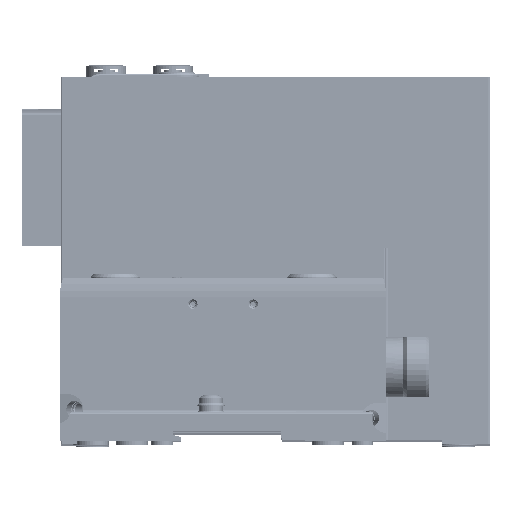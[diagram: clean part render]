
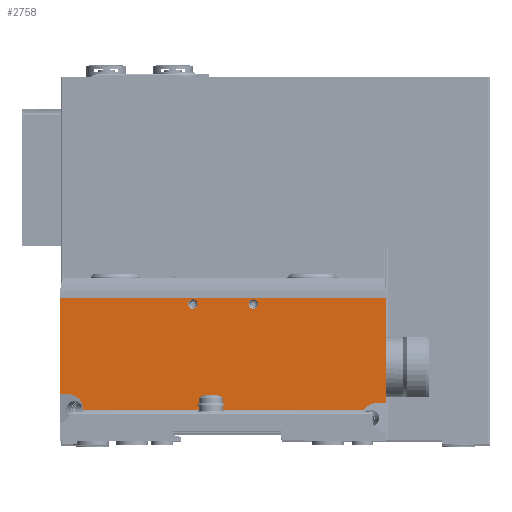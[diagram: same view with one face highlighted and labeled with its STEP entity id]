
A CAD part, top view. The second image highlights one B-rep face of the part: STEP entity #2758.
In plain terms, the highlighted planar face has unit normal (0, 0, 1) as drawn and (-1, 0, 0) by its records, which use the part's own axes.
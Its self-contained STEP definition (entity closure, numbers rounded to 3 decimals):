
#2758 = ADVANCED_FACE( '', ( #7049, #7050, #7051 ), #7052, .F. );
#7049 = FACE_BOUND( '', #13778, .T. );
#7050 = FACE_BOUND( '', #13779, .T. );
#7051 = FACE_OUTER_BOUND( '', #13780, .T. );
#7052 = PLANE( '', #13781 );
#13778 = EDGE_LOOP( '', ( #21356 ) );
#13779 = EDGE_LOOP( '', ( #21357 ) );
#13780 = EDGE_LOOP( '', ( #21358, #21359, #21360, #21361, #21362, #21363, #21364, #21365 ) );
#13781 = AXIS2_PLACEMENT_3D( '', #21366, #21367, #21368 );
#21356 = ORIENTED_EDGE( '', *, *, #37443, .T. );
#21357 = ORIENTED_EDGE( '', *, *, #37444, .T. );
#21358 = ORIENTED_EDGE( '', *, *, #37445, .T. );
#21359 = ORIENTED_EDGE( '', *, *, #37446, .T. );
#21360 = ORIENTED_EDGE( '', *, *, #37447, .F. );
#21361 = ORIENTED_EDGE( '', *, *, #37448, .F. );
#21362 = ORIENTED_EDGE( '', *, *, #37449, .F. );
#21363 = ORIENTED_EDGE( '', *, *, #37450, .T. );
#21364 = ORIENTED_EDGE( '', *, *, #37451, .F. );
#21365 = ORIENTED_EDGE( '', *, *, #37452, .T. );
#21366 = CARTESIAN_POINT( '', ( -15.4, 48.7, 54.05 ) );
#21367 = DIRECTION( '', ( 1., 0., 0. ) );
#21368 = DIRECTION( '', ( 0., 0., -1. ) );
#37443 = EDGE_CURVE( '', #44349, #44349, #44350, .T. );
#37444 = EDGE_CURVE( '', #44351, #44351, #44352, .T. );
#37445 = EDGE_CURVE( '', #44353, #44354, #44355, .T. );
#37446 = EDGE_CURVE( '', #44354, #44356, #44357, .T. );
#37447 = EDGE_CURVE( '', #44358, #44356, #44359, .F. );
#37448 = EDGE_CURVE( '', #44360, #44358, #44361, .T. );
#37449 = EDGE_CURVE( '', #44362, #44360, #44363, .F. );
#37450 = EDGE_CURVE( '', #44362, #44364, #44365, .T. );
#37451 = EDGE_CURVE( '', #44366, #44364, #44367, .T. );
#37452 = EDGE_CURVE( '', #44366, #44353, #44368, .T. );
#44349 = VERTEX_POINT( '', #54298 );
#44350 = CIRCLE( '', #54299, 1.55 );
#44351 = VERTEX_POINT( '', #54300 );
#44352 = CIRCLE( '', #54301, 1.55 );
#44353 = VERTEX_POINT( '', #54302 );
#44354 = VERTEX_POINT( '', #54303 );
#44355 = LINE( '', #54304, #54305 );
#44356 = VERTEX_POINT( '', #54306 );
#44357 = LINE( '', #54307, #54308 );
#44358 = VERTEX_POINT( '', #54309 );
#44359 = ELLIPSE( '', #54310, 5.176, 5. );
#44360 = VERTEX_POINT( '', #54311 );
#44361 = LINE( '', #54312, #54313 );
#44362 = VERTEX_POINT( '', #54314 );
#44363 = ELLIPSE( '', #54315, 5.132, 5. );
#44364 = VERTEX_POINT( '', #54316 );
#44365 = LINE( '', #54317, #54318 );
#44366 = VERTEX_POINT( '', #54319 );
#44367 = LINE( '', #54320, #54321 );
#44368 = LINE( '', #54322, #54323 );
#54298 = CARTESIAN_POINT( '', ( -15.4, 46.55, -11.55 ) );
#54299 = AXIS2_PLACEMENT_3D( '', #66621, #66622, #66623 );
#54300 = CARTESIAN_POINT( '', ( -15.4, 46.55, 8.45 ) );
#54301 = AXIS2_PLACEMENT_3D( '', #66624, #66625, #66626 );
#54302 = CARTESIAN_POINT( '', ( -15.4, 48.7, -54.05 ) );
#54303 = CARTESIAN_POINT( '', ( -15.4, 16.8, -54.05 ) );
#54304 = CARTESIAN_POINT( '', ( -15.4, 48.7, -54.05 ) );
#54305 = VECTOR( '', #66627, 1000. );
#54306 = CARTESIAN_POINT( '', ( -15.4, 16.8, -51.491 ) );
#54307 = CARTESIAN_POINT( '', ( -15.4, 16.8, 54.05 ) );
#54308 = VECTOR( '', #66628, 1000. );
#54309 = CARTESIAN_POINT( '', ( -15.4, 11.6, -46.319 ) );
#54310 = AXIS2_PLACEMENT_3D( '', #66629, #66630, #66631 );
#54311 = CARTESIAN_POINT( '', ( -15.4, 11.6, 46.669 ) );
#54312 = CARTESIAN_POINT( '', ( -15.4, 11.6, 54.05 ) );
#54313 = VECTOR( '', #66632, 1000. );
#54314 = CARTESIAN_POINT( '', ( -15.4, 13.8, 50.92 ) );
#54315 = AXIS2_PLACEMENT_3D( '', #66633, #66634, #66635 );
#54316 = CARTESIAN_POINT( '', ( -15.4, 13.8, 54.05 ) );
#54317 = CARTESIAN_POINT( '', ( -15.4, 13.8, 54.05 ) );
#54318 = VECTOR( '', #66636, 1000. );
#54319 = CARTESIAN_POINT( '', ( -15.4, 48.7, 54.05 ) );
#54320 = CARTESIAN_POINT( '', ( -15.4, 48.7, 54.05 ) );
#54321 = VECTOR( '', #66637, 1000. );
#54322 = CARTESIAN_POINT( '', ( -15.4, 48.7, 54.05 ) );
#54323 = VECTOR( '', #66638, 1000. );
#66621 = CARTESIAN_POINT( '', ( -15.4, 46.55, -10. ) );
#66622 = DIRECTION( '', ( 1., 0., 0. ) );
#66623 = DIRECTION( '', ( 0., 0., -1. ) );
#66624 = CARTESIAN_POINT( '', ( -15.4, 46.55, 10. ) );
#66625 = DIRECTION( '', ( 1., 0., 0. ) );
#66626 = DIRECTION( '', ( 0., 0., -1. ) );
#66627 = DIRECTION( '', ( 0., -1., 0. ) );
#66628 = DIRECTION( '', ( 0., 0., 1. ) );
#66629 = CARTESIAN_POINT( '', ( -15.4, 11.8, -51.491 ) );
#66630 = DIRECTION( '', ( 1., 0., 0. ) );
#66631 = DIRECTION( '', ( 0., 0., 1. ) );
#66632 = DIRECTION( '', ( 0., 0., -1. ) );
#66633 = CARTESIAN_POINT( '', ( -15.4, 8.8, 50.92 ) );
#66634 = DIRECTION( '', ( 1., 0., 0. ) );
#66635 = DIRECTION( '', ( 0., 0., -1. ) );
#66636 = DIRECTION( '', ( 0., 0., 1. ) );
#66637 = DIRECTION( '', ( 0., -1., 0. ) );
#66638 = DIRECTION( '', ( 0., 0., -1. ) );
